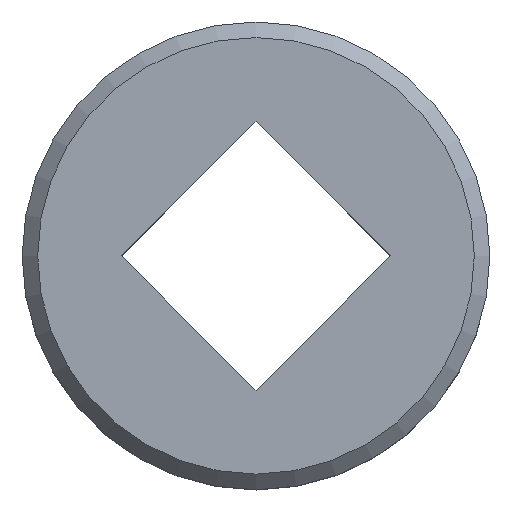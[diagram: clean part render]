
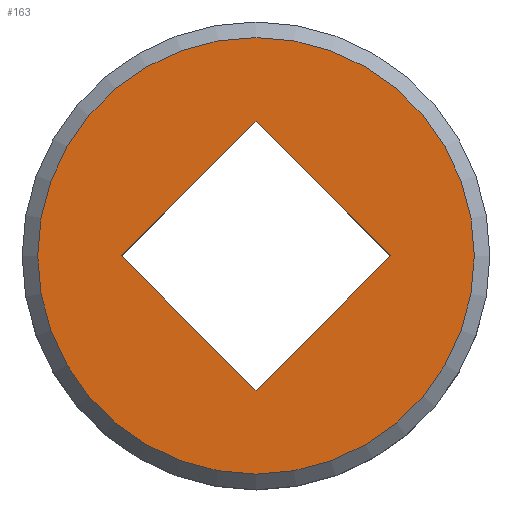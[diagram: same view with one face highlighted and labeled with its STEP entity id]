
A CAD part, top view. The second image highlights one B-rep face of the part: STEP entity #163.
In plain terms, the highlighted planar face has unit normal (0, 0, 1).
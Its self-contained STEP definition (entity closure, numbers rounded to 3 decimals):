
#16=FACE_BOUND('',#39,.T.);
#18=PLANE('',#198);
#28=FACE_OUTER_BOUND('',#38,.T.);
#38=EDGE_LOOP('',(#136));
#39=EDGE_LOOP('',(#137,#138,#139,#140));
#51=LINE('',#281,#66);
#52=LINE('',#283,#67);
#53=LINE('',#285,#68);
#54=LINE('',#286,#69);
#66=VECTOR('',#234,10.);
#67=VECTOR('',#235,10.);
#68=VECTOR('',#236,10.);
#69=VECTOR('',#237,10.);
#79=CIRCLE('',#197,14.);
#89=VERTEX_POINT('',#275);
#90=VERTEX_POINT('',#279);
#91=VERTEX_POINT('',#280);
#92=VERTEX_POINT('',#282);
#93=VERTEX_POINT('',#284);
#105=EDGE_CURVE('',#89,#89,#79,.T.);
#107=EDGE_CURVE('',#90,#91,#51,.T.);
#108=EDGE_CURVE('',#91,#92,#52,.T.);
#109=EDGE_CURVE('',#92,#93,#53,.T.);
#110=EDGE_CURVE('',#93,#90,#54,.T.);
#136=ORIENTED_EDGE('',*,*,#105,.F.);
#137=ORIENTED_EDGE('',*,*,#107,.T.);
#138=ORIENTED_EDGE('',*,*,#108,.T.);
#139=ORIENTED_EDGE('',*,*,#109,.T.);
#140=ORIENTED_EDGE('',*,*,#110,.T.);
#163=ADVANCED_FACE('',(#28,#16),#18,.T.);
#197=AXIS2_PLACEMENT_3D('',#276,#229,#230);
#198=AXIS2_PLACEMENT_3D('',#278,#232,#233);
#229=DIRECTION('center_axis',(0.,0.,-1.));
#230=DIRECTION('ref_axis',(-1.,0.,0.));
#232=DIRECTION('center_axis',(0.,0.,1.));
#233=DIRECTION('ref_axis',(1.,0.,0.));
#234=DIRECTION('',(-0.707,0.707,0.));
#235=DIRECTION('',(0.707,0.707,0.));
#236=DIRECTION('',(0.707,-0.707,0.));
#237=DIRECTION('',(-0.707,-0.707,0.));
#275=CARTESIAN_POINT('',(14.,0.,6.));
#276=CARTESIAN_POINT('Origin',(0.,0.,6.));
#278=CARTESIAN_POINT('Origin',(0.,0.,6.));
#279=CARTESIAN_POINT('',(0.,-8.627,6.));
#280=CARTESIAN_POINT('',(-8.627,0.,6.));
#281=CARTESIAN_POINT('',(0.,-8.627,6.));
#282=CARTESIAN_POINT('',(0.,8.627,6.));
#283=CARTESIAN_POINT('',(-8.627,0.,6.));
#284=CARTESIAN_POINT('',(8.627,0.,6.));
#285=CARTESIAN_POINT('',(0.,8.627,6.));
#286=CARTESIAN_POINT('',(8.627,0.,6.));
